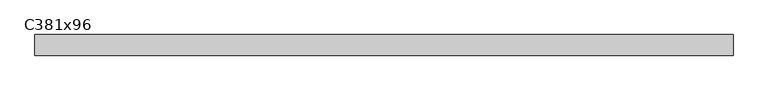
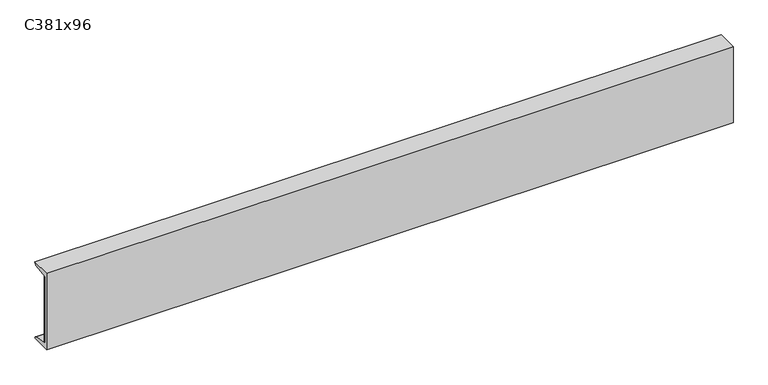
"""IFC4 building model written with IfcOpenShell, lengths in millimetres: beam geometry, M_C-Channel_305x105 : C381x96."""

import ifcopenshell
import ifcopenshell.guid

model = None  # the IFC model being written
_history = None  # IfcOwnerHistory: only IFC2X3 demands one
_inside = {}  # id of a spatial element -> (the spatial element, [elements in it])
_under = {}  # id of a project, library or spatial element -> (it, [spatial elements below it])
_declared = {}  # id of a project -> (the project, [libraries it declares])
_typed = {}  # id of a type object -> (the type object, [elements of that type])
_made_of = {}  # id of a material, layer set ... -> (it, [elements and type objects made of it])


def new_model(schema):
    """Start an empty IFC model of exactly this schema.

    Asked for "IFC4X3", IfcOpenShell would pick the latest addendum, in which some entities
    have other attributes; the version numbers below select the first issue.
    IFC2X3 requires an IfcOwnerHistory on every rooted entity: one is made here for all.
    """
    global model, _history
    if schema == "IFC4X3":
        model = ifcopenshell.file(schema_version=(4, 3, 0, 0))
    else:
        model = ifcopenshell.file(schema=schema)
    _inside.clear()
    _under.clear()
    _declared.clear()
    _typed.clear()
    _made_of.clear()
    _history = None
    if model.schema == "IFC2X3":
        org = make("IfcOrganization", Name="unknown")
        user = make(
            "IfcPersonAndOrganization",
            ThePerson=make("IfcPerson", FamilyName="unknown"),
            TheOrganization=org,
        )
        app = make(
            "IfcApplication",
            ApplicationDeveloper=org,
            Version="unknown",
            ApplicationFullName="unknown",
            ApplicationIdentifier="unknown",
        )
        _history = make(
            "IfcOwnerHistory",
            OwningUser=user,
            OwningApplication=app,
            ChangeAction="ADDED",
            CreationDate=0,
        )
    return model


def make(cls, **values):
    """One entity of the class cls with the attributes given. An attribute that is None is left unset."""
    return model.create_entity(
        cls, **{name: value for name, value in values.items() if value is not None}
    )


def rooted(cls, **values):
    """An entity with a GlobalId (a new one), such as an element, a storey or a relation."""
    return make(cls, GlobalId=ifcopenshell.guid.new(), OwnerHistory=_history, **values)


def si_unit(unit_type, name, prefix=None):
    """IfcSIUnit, for example si_unit("LENGTHUNIT", "METRE", prefix="MILLI")."""
    return make("IfcSIUnit", UnitType=unit_type, Prefix=prefix, Name=name)


def assignment(units):
    """IfcUnitAssignment: the units of a project."""
    return None if units is None else make("IfcUnitAssignment", Units=units)


def point(xyz):
    """IfcCartesianPoint."""
    return None if xyz is None else make("IfcCartesianPoint", Coordinates=xyz)


def direction(xyz):
    """IfcDirection."""
    return None if xyz is None else make("IfcDirection", DirectionRatios=xyz)


def frame(location, z_axis=None, x_axis=None):
    """IfcAxis2Placement3D, a coordinate frame: its origin and axes. An axis left out is left unset."""
    return make(
        "IfcAxis2Placement3D",
        Location=point(location),
        Axis=direction(z_axis),
        RefDirection=direction(x_axis),
    )


def frame_2d(location, x_axis=None):
    """IfcAxis2Placement2D, a coordinate frame in the plane: its origin and x axis."""
    return make(
        "IfcAxis2Placement2D", Location=point(location), RefDirection=direction(x_axis)
    )


def origin():
    """The frame at (0, 0, 0) with its axes left unset."""
    return frame((0.0, 0.0, 0.0))


def place(relative_to, where):
    """IfcLocalPlacement: puts the frame where relative to a parent placement (None: the world)."""
    return make(
        "IfcLocalPlacement", PlacementRelTo=relative_to, RelativePlacement=where
    )


def context(
    kind, dimensions, precision=None, world=None, true_north=None, identifier=None
):
    """IfcGeometricRepresentationContext, for example the 3D "Model" context."""
    return make(
        "IfcGeometricRepresentationContext",
        ContextIdentifier=identifier,
        ContextType=kind,
        CoordinateSpaceDimension=dimensions,
        Precision=precision,
        WorldCoordinateSystem=world,
        TrueNorth=true_north,
    )


def project(units=None, contexts=None):
    """IfcProject with its units and contexts."""
    return rooted(
        "IfcProject",
        Name="project",
        RepresentationContexts=contexts,
        UnitsInContext=assignment(units),
    )


def spatial(cls, under=None, at=None, **own):
    """A site, building, storey or space (cls), placed at a placement, below another one or the project."""
    s = rooted(cls, ObjectPlacement=at, **own)
    if under is not None:
        _under.setdefault(under.id(), (under, []))[1].append(s)
    return s


def polyline(points):
    """IfcPolyline through the points."""
    return make("IfcPolyline", Points=[point(p) for p in points])


def circle_curve(where, radius):
    """IfcCircle in the frame where."""
    return make("IfcCircle", Position=where, Radius=radius)


def trimmed(basis, trim1, trim2, sense, master):
    """IfcTrimmedCurve: the piece of a basis curve between two trims."""
    return make(
        "IfcTrimmedCurve",
        BasisCurve=basis,
        Trim1=trim1,
        Trim2=trim2,
        SenseAgreement=sense,
        MasterRepresentation=master,
    )


def segment(curve, same_sense, transition):
    """IfcCompositeCurveSegment."""
    return make(
        "IfcCompositeCurveSegment",
        Transition=transition,
        SameSense=same_sense,
        ParentCurve=curve,
    )


def composite_curve(segments, self_intersect=None):
    """IfcCompositeCurve: segments joined end to end."""
    return make("IfcCompositeCurve", Segments=segments, SelfIntersect=self_intersect)


def outline(outer, holes=None, kind="AREA"):
    """IfcArbitraryClosedProfileDef: a profile drawn as a closed curve; with holes, ...WithVoids."""
    if holes is None:
        return make("IfcArbitraryClosedProfileDef", ProfileType=kind, OuterCurve=outer)
    return make(
        "IfcArbitraryProfileDefWithVoids",
        ProfileType=kind,
        OuterCurve=outer,
        InnerCurves=holes,
    )


def extrude(swept, where, along, depth):
    """IfcExtrudedAreaSolid: the profile swept, set in the frame where, extruded along a direction by depth."""
    return make(
        "IfcExtrudedAreaSolid",
        SweptArea=swept,
        Position=where,
        ExtrudedDirection=direction(along),
        Depth=depth,
    )


def shape(context_of_items, identifier, shape_type, items):
    """IfcShapeRepresentation: the items that make up one representation, for example the "Body"."""
    return make(
        "IfcShapeRepresentation",
        ContextOfItems=context_of_items,
        RepresentationIdentifier=identifier,
        RepresentationType=shape_type,
        Items=items,
    )


def source(mapping_origin, context_of_items, identifier, shape_type, items):
    """IfcRepresentationMap: a shape defined once, which mapped items show again and again."""
    return make(
        "IfcRepresentationMap",
        MappingOrigin=mapping_origin,
        MappedRepresentation=shape(context_of_items, identifier, shape_type, items),
    )


def transform(
    local_origin,
    x_axis=None,
    y_axis=None,
    z_axis=None,
    scale=None,
    scale2=None,
    scale3=None,
    uniform=True,
):
    """IfcCartesianTransformationOperator3D, or its non-uniform kind. x_axis, y_axis, z_axis: its Axis1, 2, 3."""
    if uniform:
        return make(
            "IfcCartesianTransformationOperator3D",
            Axis1=direction(x_axis),
            Axis2=direction(y_axis),
            LocalOrigin=point(local_origin),
            Scale=scale,
            Axis3=direction(z_axis),
        )
    return make(
        "IfcCartesianTransformationOperator3DnonUniform",
        Axis1=direction(x_axis),
        Axis2=direction(y_axis),
        LocalOrigin=point(local_origin),
        Scale=scale,
        Axis3=direction(z_axis),
        Scale2=scale2,
        Scale3=scale3,
    )


def mapped(mapping_source, mapping_target):
    """IfcMappedItem: shows the shape of a source again, moved by a transform."""
    return make(
        "IfcMappedItem", MappingSource=mapping_source, MappingTarget=mapping_target
    )


def made_of(thing, what):
    """Note that an element or type object is made of a material, layer set ...; save() writes the relation."""
    if what is not None:
        _made_of.setdefault(what.id(), (what, []))[1].append(thing)
    return thing


def element(
    cls,
    number,
    at=None,
    inside=None,
    cuts=None,
    type_object=None,
    material=None,
    context=None,
    identifier="Body",
    shape_type=None,
    held_by="IfcProductDefinitionShape",
    body=None,
    shapes=None,
    **own,
):
    """One element of the class cls, such as IfcWall. Its Tag is "e" and its number.

    at: its placement. inside: the storey or other place that contains it. cuts: it is an
    opening in that element (IfcRelVoidsElement). A single representation is given by context,
    identifier, shape_type and body (its items); several are given by shapes. held_by: the class
    of the entity that holds the representations. save() writes the other relations.
    """
    e = rooted(cls, Tag="e%d" % number, ObjectPlacement=at, **own)
    if body is not None:
        shapes = [shape(context, identifier, shape_type, body)]
    if shapes is not None:
        e.Representation = make(held_by, Representations=shapes)
    if inside is not None:
        _inside.setdefault(inside.id(), (inside, []))[1].append(e)
    if cuts is not None:
        rooted(
            "IfcRelVoidsElement", RelatingBuildingElement=cuts, RelatedOpeningElement=e
        )
    if type_object is not None:
        _typed.setdefault(type_object.id(), (type_object, []))[1].append(e)
    return made_of(e, material)


def aggregate(whole, parts):
    """IfcRelAggregates: a whole, such as a stair, and the parts it consists of."""
    return rooted("IfcRelAggregates", RelatingObject=whole, RelatedObjects=parts)


def save(model, path):
    """Write the relations noted so far, then the file.

    IfcRelAggregates (storeys below a building ...), IfcRelContainedInSpatialStructure (elements
    in a storey), IfcRelDefinesByType, IfcRelAssociatesMaterial and IfcRelDeclares: one each for
    every whole, place, type object, material and project.
    """
    for whole, parts in _under.values():
        aggregate(whole, parts)
    for where, things in _inside.values():
        rooted(
            "IfcRelContainedInSpatialStructure",
            RelatedElements=things,
            RelatingStructure=where,
        )
    for kind, things in _typed.values():
        rooted("IfcRelDefinesByType", RelatedObjects=things, RelatingType=kind)
    for what, things in _made_of.values():
        rooted("IfcRelAssociatesMaterial", RelatedObjects=things, RelatingMaterial=what)
    for by, libraries in _declared.values():
        rooted("IfcRelDeclares", RelatingContext=by, RelatedDefinitions=libraries)
    model.write(path)


def c381x96_7eebbe73(model_context):
    return source(origin(), model_context, "Body", "SweptSolid", [
        extrude(outline(composite_curve([segment(polyline([(-16.8909985, 190.5), (79.1090015, 190.5)]), True, "CONTINUOUS"), segment(trimmed(circle_curve(frame_2d((66.4090015, 190.5)), 12.7), [point((79.1090015, 190.5))], [point((66.4090015, 177.8))], False, "CARTESIAN"), True, "CONTINUOUS"), segment(polyline([(66.4090015, 177.8), (-3.8909985, 166.6655738), (-3.8909985, -166.6655738), (66.4090015, -177.8)]), True, "CONTINUOUS"), segment(trimmed(circle_curve(frame_2d((66.4090015, -190.5)), 12.7), [point((66.4090015, -177.8))], [point((79.1090015, -190.5))], False, "CARTESIAN"), True, "CONTINUOUS"), segment(polyline([(79.1090015, -190.5), (-16.8909985, -190.5), (-16.8909985, 190.5)]), True, "CONTINUOUS")], self_intersect=False)), frame((178.6822641, 0.0, 0.0), z_axis=(1.0, 0.0, 0.0), x_axis=(0.0, 1.0, 0.0)), (0.0, 0.0, 1.0), 3243.728),
        extrude(outline(polyline([(4.2340015, 166.8239583), (4.2340015, -164.495707), (4.2340015, -166.8239583), (-0.8909985, -166.012238), (-0.8909985, 166.012238), (4.2340015, 166.8239583)])), frame((178.6822641, 0.0, 0.0), z_axis=(1.0, 0.0, 0.0), x_axis=(0.0, 1.0, 0.0)), (0.0, 0.0, 1.0), 3243.728),
    ])


if __name__ == "__main__":
    model = new_model("IFC4")
    model_context = context("Model", 3, world=origin())
    ifc_project = project(units=[si_unit("LENGTHUNIT", "METRE", prefix="MILLI")], contexts=[model_context])
    site = spatial("IfcSite", under=ifc_project)
    building = spatial("IfcBuilding", under=site)
    placement = place(None, origin())
    c381x96_shape = c381x96_7eebbe73(model_context)
    element("IfcBeam", 1, ObjectType="M_C-Channel_305x105 : C381x96", at=placement, inside=building, context=model_context, shape_type="MappedRepresentation", body=[
        mapped(c381x96_shape, transform((0.0, 0.0, 0.0), x_axis=(1.0, 0.0, 0.0), y_axis=(0.0, 1.0, 0.0), z_axis=(0.0, 0.0, 1.0))),
    ])
    save(model, "model.ifc")
